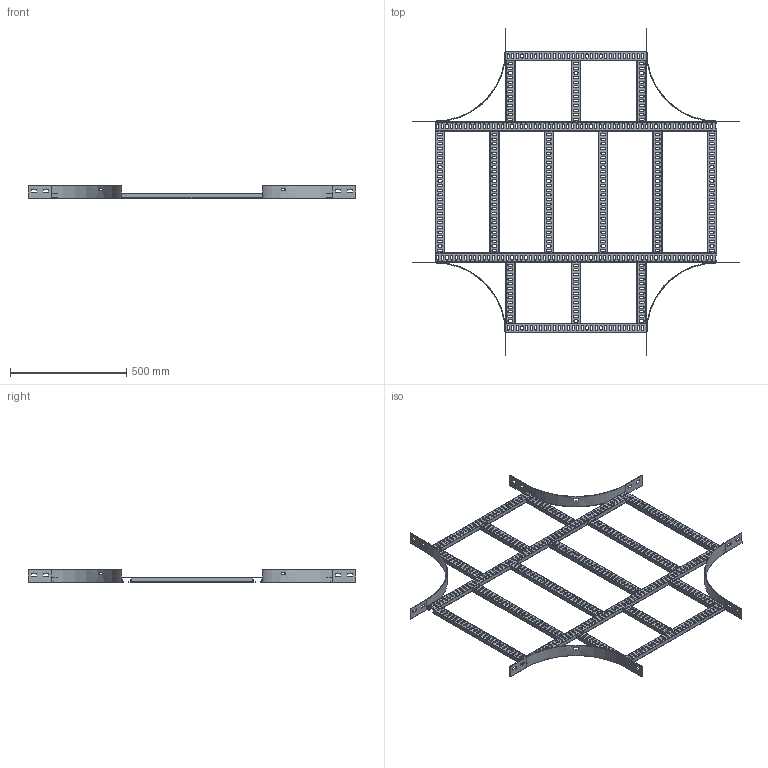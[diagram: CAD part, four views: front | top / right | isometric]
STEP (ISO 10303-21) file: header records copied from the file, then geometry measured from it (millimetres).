
FILE_DESCRIPTION(/* description */ ('','CAx-IF Rec.Pracs.---Representation and Presentation of Product Manufacturing Information (PMI)---4.0---2014-10-13'),/* implementation_level */ '2;1');
FILE_NAME(/* name */ 'Eurostrut_ECO60-600-300_Crossover for Cable Ladder ECL.step',/* time_stamp */ '2026-09-03T13:20:26+02:00',/* author */ (''),/* organization */ (''),/* preprocessor_version */ 'ST-DEVELOPER v20.1',/* originating_system */ 'Autodesk Revit 2027 27.2.0.39',/* authorisation */ '');
FILE_SCHEMA (('AP242_MANAGED_MODEL_BASED_3D_ENGINEERING_MIM_LF { 1 0 10303 442 2 1 4 }'));
Products named in the file (10): TopLevelAssembly; Sweep; Sweep_1; Sweep_2; Sweep_3; Eurostrut_Cable Ladder_Rung_With slots; Eurostrut_Cable Ladder_Rung_With slots_1; Eurostrut_Cable Ladder_Rung Array Straight_Slotted; Eurostrut_Cable Ladder_Rung Array Straight_Slotted_1; Eurostrut_Cable Ladder_Accessory End_54-94-142
Assembly tree (19 placements, depth 2):
  TopLevelAssembly
    Sweep
    Sweep_1
    Eurostrut_Cable Ladder_Rung_With slots  x2
    Eurostrut_Cable Ladder_Rung_With slots_1  x2
    Sweep_2
    Sweep_3
    Eurostrut_Cable Ladder_Rung Array Straight_Slotted
    Eurostrut_Cable Ladder_Rung Array Straight_Slotted_1  x2
    Eurostrut_Cable Ladder_Accessory End_54-94-142  x8
Bounding box: 1411 x 1411 x 54 mm (x, y, z)
Volume: 1445948.1 mm3; surface area: 1734586.1 mm2
Topology: 28 solids, 28 shells, 2104 faces, 6144 edges, 4096 vertices
Faces by surface type: plane 1200, bspline 832, cylinder 72
Entity records: 63996 total; most frequent: CARTESIAN_POINT 25913, ORIENTED_EDGE 8184, DIRECTION 7062, EDGE_CURVE 4092, LINE 2828, VECTOR 2828, VERTEX_POINT 2728, AXIS2_PLACEMENT_3D 2117
